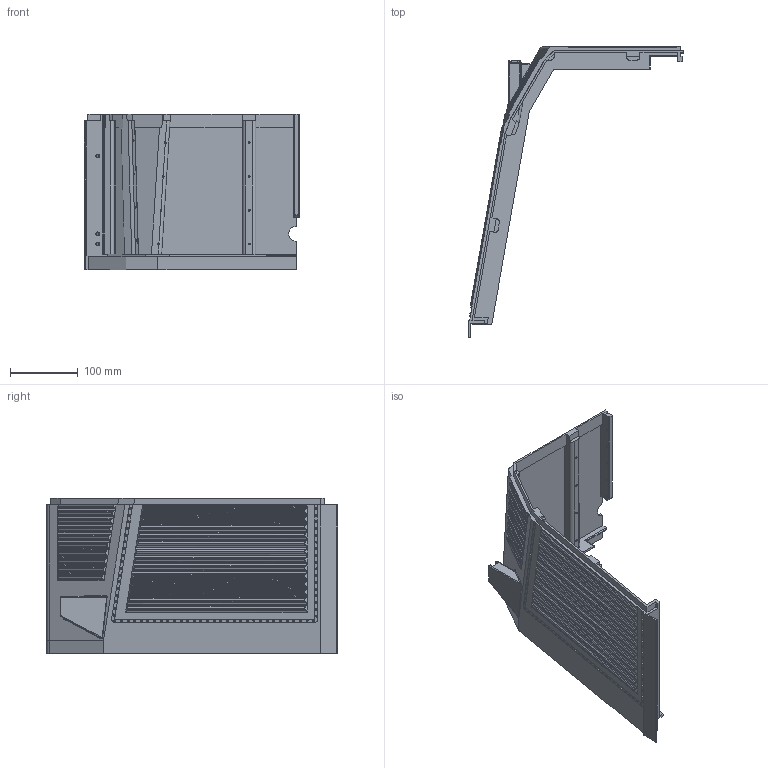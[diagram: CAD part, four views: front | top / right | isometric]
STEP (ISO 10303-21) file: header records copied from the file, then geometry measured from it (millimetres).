
FILE_DESCRIPTION(('STEP AP242 Edition 2','STEP AP242 Edition 2''CAx-IF Rec.Pracs.---Representation and Presentation of Product Manufacturing Information (PMI)---4.0---2014-10-13','STEP AP242 Edition 2''CAx-IF Rec.Pracs.---Representation and Presentation of Product Manufacturing Information (PMI)---4.0---2014-10-13''CAx-IF Rec.Pracs.---3D Tessellated Geometry---0.4---2014-09-14','STEP AP242 Edition 2''CAx-IF Rec.Pracs.---Representation and Presentation of Product Manufacturing Information (PMI)---4.0---2014-10-13''CAx-IF Rec.Pracs.---3D Tessellated Geometry---0.4---2014-09-14''2;1','STEP AP242 Edition 2''CAx-IF Rec.Pracs.---Representation and Presentation of Product Manufacturing Information (PMI)---4.0---2014-10-13''CAx-IF Rec.Pracs.---3D Tessellated Geometry---0.4---2014-09-14''2;1''CAx-IF Rec.Pracs.---User Defined Attributes---1.5---2016-08-15'),'2;1');
FILE_NAME('/vol/tmp/translate-5928582753522486027/Part Studio Body Front - Part Front Left LowerBottom - Blue Car Color.step','2026-05-02T13:02:35',(''),(''),'ST-DEVELOPER v20','ONSHAPE BY PTC INC, 1.214',' ');
FILE_SCHEMA(('AP242_MANAGED_MODEL_BASED_3D_ENGINEERING_MIM_LF { 1 0 10303 442 3 1 4 }'));
Length unit declared in the file: metre
Products named in the file (1): Part Front Left LowerBottom - Blue Car Color
Bounding box: 319 x 430.45 x 229.7 mm (x, y, z)
Volume: 951718.5 mm3; surface area: 399225.4 mm2
Topology: 1 solids, 1 shells, 920 faces, 2272 edges, 1518 vertices
Faces by surface type: plane 574, cylinder 168, cone 167, bspline 9, sphere 2
Full cylindrical faces by diameter (mm): 2.75 x29, 4 x3, 5.6 x3
Entity records: 27392 total; most frequent: CARTESIAN_POINT 5455, DIRECTION 4526, ORIENTED_EDGE 4172, EDGE_CURVE 2086, AXIS2_PLACEMENT_3D 1596, VERTEX_POINT 1473, LINE 1334, VECTOR 1334
